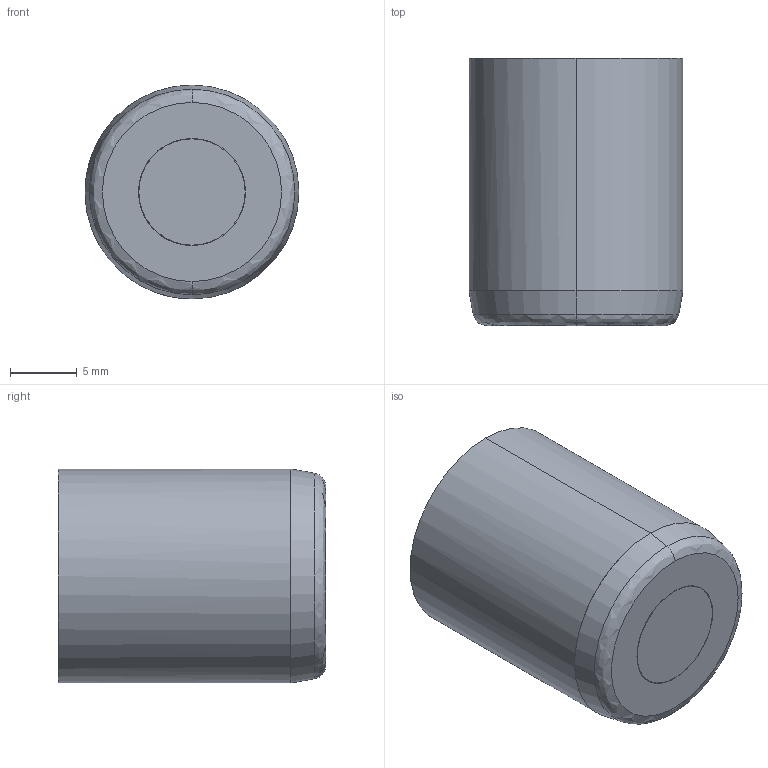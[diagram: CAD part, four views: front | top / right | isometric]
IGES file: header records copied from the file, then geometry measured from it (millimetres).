
Start section: START RECORD GO HERE.
Global section: file name: fa168712-20.igs; native system: DASSAULT SYSTEMES CATIA V5 R20 - www.3ds.com; preprocessor: CATIA Version 5 Release 20 ; author: Utente; organization: NB04-ASUS; date: 20201108.083515; units: millimetre
Bounding box: 16 x 20 x 16 mm (x, y, z)
Surface area: 2704.4 mm2 (no closed solid volume)
Topology: 0 solids, 0 shells, 426 faces, 2134 edges, 2130 vertices
Faces by surface type: revolution 211, plane 145, bspline 70
